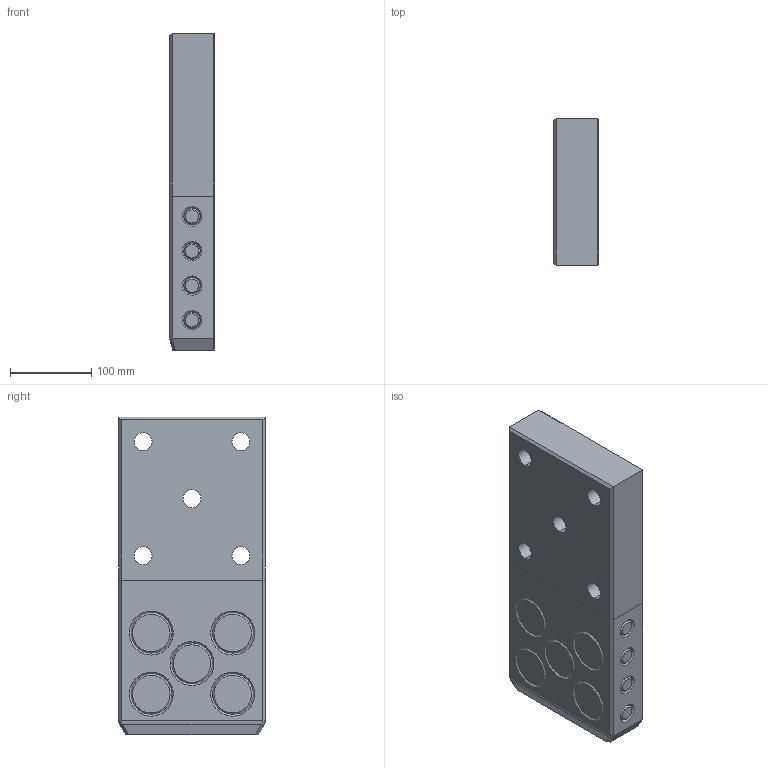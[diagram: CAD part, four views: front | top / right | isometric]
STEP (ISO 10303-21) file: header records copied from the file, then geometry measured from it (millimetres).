
FILE_DESCRIPTION((''),'2;1');
FILE_NAME('','2010-08-30T19:12:24+09:00',('misumi'),(''),'M/STEP i/f 1R2-14','CADmeister v5.1','');
FILE_SCHEMA(('AUTOMOTIVE_DESIGN'));
Length unit declared in the file: millimetre
Products named in the file (1): OGZ180-390
Bounding box: 55 x 180 x 390 mm (x, y, z)
Volume: 3684141.8 mm3; surface area: 221054.7 mm2
Topology: 1 solids, 1 shells, 123 faces, 264 edges, 162 vertices
Faces by surface type: cone 52, plane 44, cylinder 23, bspline 4
Entity records: 4398 total; most frequent: CARTESIAN_POINT 1606, DIRECTION 580, ORIENTED_EDGE 528, EDGE_CURVE 264, AXIS2_PLACEMENT_3D 226, VERTEX_POINT 162, EDGE_LOOP 152, LINE 128
